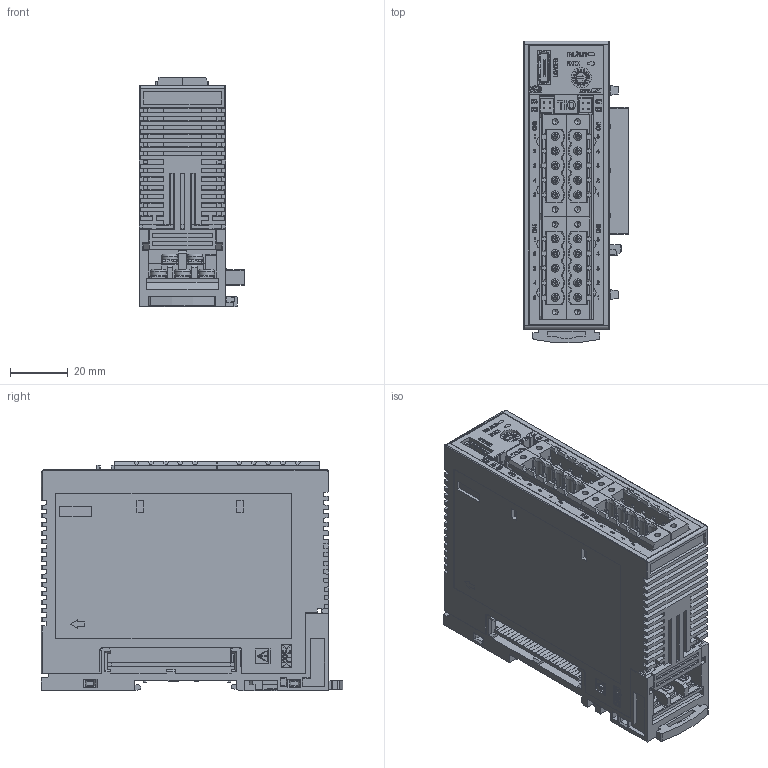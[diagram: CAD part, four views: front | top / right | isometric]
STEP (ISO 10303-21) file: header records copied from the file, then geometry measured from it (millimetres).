
FILE_DESCRIPTION (( 'STEP AP203' ), '1' );
FILE_NAME ('SRZ(Z-TIO-AC-CT—L)_WEB.STEP', '2020-03-31T09:55:01', ( '' ), ( '' ), 'SwSTEP 2.0', 'SolidWorks 2018', '' );
FILE_SCHEMA (( 'CONFIG_CONTROL_DESIGN' ));
Length unit declared in the file: millimetre
Products named in the file (3): SRZ(基本設計-コネクタ-CT有)_WEB_デフォルト; SRZ(Z-TIO-AC-CT有)_WEB; KSRZ-54(1)_WEB_デフォルト
Assembly tree (2 placements, depth 2):
  SRZ(Z-TIO-AC-CT有)_WEB
    SRZ(基本設計-コネクタ-CT有)_WEB_デフォルト
    KSRZ-54(1)_WEB_デフォルト
Bounding box: 36.65 x 104.76 x 79.75 mm (x, y, z)
Volume: 170492.8 mm3; surface area: 58318.4 mm2
Topology: 3 solids, 22 shells, 4848 faces, 12870 edges, 8326 vertices
Faces by surface type: plane 3578, bspline 667, cylinder 441, cone 80, torus 58, sphere 24
Entity records: 168121 total; most frequent: CARTESIAN_POINT 52066, ORIENTED_EDGE 25644, DIRECTION 20654, EDGE_CURVE 12822, LINE 10266, VECTOR 10266, VERTEX_POINT 8318, EDGE_LOOP 5236
